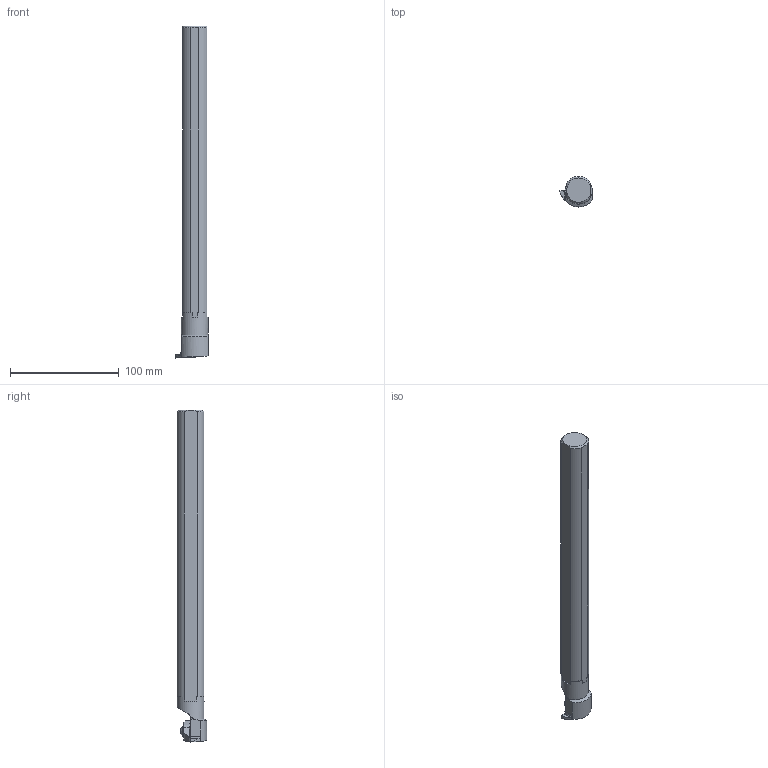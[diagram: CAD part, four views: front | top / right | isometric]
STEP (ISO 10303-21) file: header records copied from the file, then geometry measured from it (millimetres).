
FILE_DESCRIPTION(/* description */ (''),/* implementation_level */ '2;1');
FILE_NAME(/* name */ 'A16NER3_GTM.stp',/* time_stamp */ '2017-07-12T18:31:44+05:00',/* author */ (''),/* organization */ (''),/* preprocessor_version */ 'ST-DEVELOPER v15',/* originating_system */ 'SIEMENS PLM Software NX 9.0',/* authorisation */ '');
FILE_SCHEMA (('AUTOMOTIVE_DESIGN { 1 0 10303 214 3 1 1 1 }'));
Length unit declared in the file: millimetre
Products named in the file (1): A16NER3_GTM
Bounding box: 29.84 x 27.3 x 304.79 mm (x, y, z)
Volume: 140776.7 mm3; surface area: 26323.7 mm2
Topology: 4 solids, 4 shells, 148 faces, 418 edges, 288 vertices
Faces by surface type: plane 76, cylinder 63, bspline 5, cone 4
Full cylindrical faces by diameter (mm): 4.826 x1, 5.791 x1, 8.992 x1, 10.008 x1, 24.727 x1
Entity records: 5049 total; most frequent: CARTESIAN_POINT 1080, DIRECTION 825, ORIENTED_EDGE 800, EDGE_CURVE 400, AXIS2_PLACEMENT_3D 295, VERTEX_POINT 269, LINE 235, VECTOR 235
